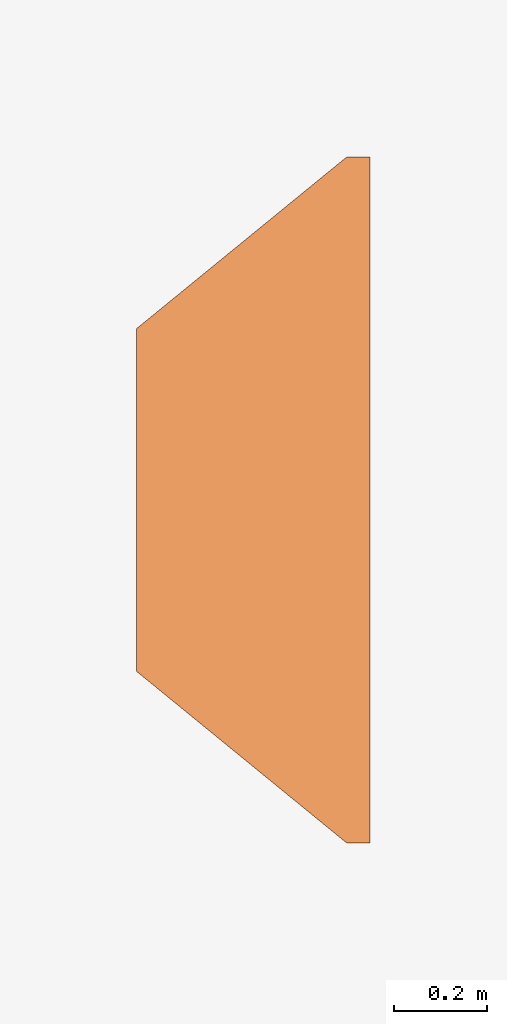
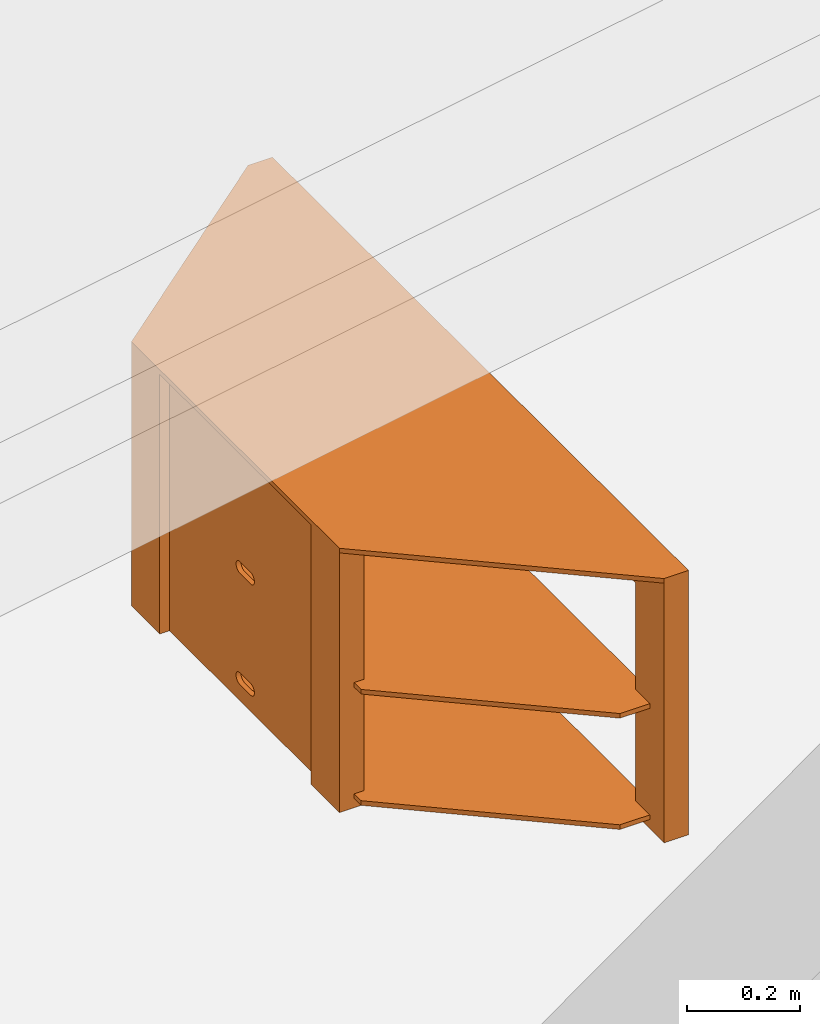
# One storey, part 6 of 6: 1 proxy.
"""IFC2X3 building model written with IfcOpenShell, lengths in metres."""

from ifc_helpers import new_model, entity, si_unit, converted_unit, derived_unit, direction, frame, origin, place, context, subcontext, project, spatial, faceted_brep, source, transform, mapped, material, material_list, type_object, type_shapes, element, save


model = new_model("IFC2X3")

# Units and contexts
model_context = context("Model", 3, precision=1e-05, world=origin(), true_north=direction((6.12303176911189e-17, 1.0)))
body_context = subcontext(model_context, "Body", "Model", "MODEL_VIEW")
ifc_project = project(units=[si_unit("LENGTHUNIT", "METRE"), si_unit("AREAUNIT", "SQUARE_METRE"), si_unit("VOLUMEUNIT", "CUBIC_METRE"), converted_unit("PLANEANGLEUNIT", "DEGREE", entity("IfcRatioMeasure", 0.0174532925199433), si_unit("PLANEANGLEUNIT", "RADIAN"), dimensions=[0, 0, 0, 0, 0, 0, 0]), si_unit("MASSUNIT", "GRAM", prefix="KILO"), derived_unit("MASSDENSITYUNIT", [(si_unit("MASSUNIT", "GRAM", prefix="KILO"), 1), (si_unit("LENGTHUNIT", "METRE"), -3)]), derived_unit("MOMENTOFINERTIAUNIT", [(si_unit("LENGTHUNIT", "METRE"), 4)]), si_unit("TIMEUNIT", "SECOND"), si_unit("FREQUENCYUNIT", "HERTZ"), si_unit("THERMODYNAMICTEMPERATUREUNIT", "DEGREE_CELSIUS"), derived_unit("THERMALTRANSMITTANCEUNIT", [(si_unit("MASSUNIT", "GRAM", prefix="KILO"), 1), (si_unit("THERMODYNAMICTEMPERATUREUNIT", "KELVIN"), -1), (si_unit("TIMEUNIT", "SECOND"), -3)]), derived_unit("VOLUMETRICFLOWRATEUNIT", [(si_unit("LENGTHUNIT", "METRE"), 3), (si_unit("TIMEUNIT", "SECOND"), -1)]), si_unit("ELECTRICCURRENTUNIT", "AMPERE"), si_unit("ELECTRICVOLTAGEUNIT", "VOLT"), si_unit("POWERUNIT", "WATT"), si_unit("FORCEUNIT", "NEWTON", prefix="KILO"), si_unit("ILLUMINANCEUNIT", "LUX"), si_unit("LUMINOUSFLUXUNIT", "LUMEN"), si_unit("LUMINOUSINTENSITYUNIT", "CANDELA"), derived_unit("USERDEFINED", [(si_unit("MASSUNIT", "GRAM", prefix="KILO"), -1), (si_unit("LENGTHUNIT", "METRE"), -2), (si_unit("TIMEUNIT", "SECOND"), 3), (si_unit("LUMINOUSFLUXUNIT", "LUMEN"), 1)]), derived_unit("LINEARVELOCITYUNIT", [(si_unit("LENGTHUNIT", "METRE"), 1), (si_unit("TIMEUNIT", "SECOND"), -1)]), si_unit("PRESSUREUNIT", "PASCAL"), derived_unit("USERDEFINED", [(si_unit("LENGTHUNIT", "METRE"), -2), (si_unit("MASSUNIT", "GRAM", prefix="KILO"), 1), (si_unit("TIMEUNIT", "SECOND"), -2)]), derived_unit("LINEARFORCEUNIT", [(si_unit("MASSUNIT", "GRAM", prefix="KILO"), 1), (si_unit("LENGTHUNIT", "METRE"), 1), (si_unit("TIMEUNIT", "SECOND"), -2), (si_unit("LENGTHUNIT", "METRE"), -1)]), derived_unit("PLANARFORCEUNIT", [(si_unit("MASSUNIT", "GRAM", prefix="KILO"), 1), (si_unit("LENGTHUNIT", "METRE"), 1), (si_unit("TIMEUNIT", "SECOND"), -2), (si_unit("LENGTHUNIT", "METRE"), -2)])], contexts=[model_context])

# Site, building, storey
site_placement = place(None, origin())
site = spatial("IfcSite", under=ifc_project, at=site_placement, Name="Surface", CompositionType="ELEMENT")
building_placement = place(site_placement, origin())
building = spatial("IfcBuilding", under=site, at=building_placement, CompositionType="ELEMENT")
storey_placement = place(building_placement, frame((0.0, 0.0, 5.6)))
storey = spatial("IfcBuildingStorey", under=building, at=storey_placement, Name="Niveau comble", CompositionType="ELEMENT", Elevation=5.6)

# Proxy
ifc_material_1 = material(Name="Verre - Meuble TV")
ifc_material_2 = material(Name="Bois - Mélaminé rouge")
ifc_material_3 = material(Name="Bois - Mélaminé gris")
ifc_material_list_1 = material_list([ifc_material_1, ifc_material_2, ifc_material_3])
ifc_material_list_2 = material_list([ifc_material_2, ifc_material_1])
building_element_proxy_type = type_object("IfcBuildingElementProxyType", Name="Meuble TV:1470 x 500 x 560 mm", PredefinedType="NOTDEFINED", material=ifc_material_list_2)
shared_shape = source(origin(), body_context, "Body", "Brep", [
    faceted_brep([(0.517188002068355, -0.03, 0.0199999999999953), (0.810188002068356, -0.388775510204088, 0.0199999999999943), (0.810188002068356, -0.470000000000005, 0.0199999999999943), (-0.559811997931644, -0.470000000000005, 0.0199999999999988), (-0.559811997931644, -0.38877551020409, 0.0199999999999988), (-0.266811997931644, -0.03, 0.0199999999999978), (0.517188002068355, -0.03, 0.0299999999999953), (-0.266811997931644, -0.03, 0.0299999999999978), (-0.559811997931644, -0.38877551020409, 0.0299999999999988), (-0.559811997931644, -0.470000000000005, 0.0299999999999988), (0.810188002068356, -0.470000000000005, 0.0299999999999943), (0.810188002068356, -0.388775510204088, 0.0299999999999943)], [[[0, 1, 2, 3, 4, 5]], [[6, 7, 8, 9, 10, 11]], [[1, 0, 6, 11]], [[2, 1, 11, 10]], [[3, 2, 10, 9]], [[4, 3, 9, 8]], [[5, 4, 8, 7]], [[0, 5, 7, 6]]]),
    faceted_brep([(0.517188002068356, -0.03, 0.259999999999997), (0.810188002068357, -0.388775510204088, 0.259999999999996), (0.810188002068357, -0.470000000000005, 0.259999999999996), (-0.559811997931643, -0.470000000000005, 0.260000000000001), (-0.559811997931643, -0.38877551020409, 0.260000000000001), (-0.266811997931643, -0.03, 0.26), (0.517188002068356, -0.03, 0.269999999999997), (-0.266811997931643, -0.03, 0.27), (-0.559811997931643, -0.38877551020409, 0.270000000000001), (-0.559811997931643, -0.470000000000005, 0.270000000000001), (0.810188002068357, -0.470000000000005, 0.269999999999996), (0.810188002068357, -0.388775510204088, 0.269999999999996)], [[[0, 1, 2, 3, 4, 5]], [[6, 7, 8, 9, 10, 11]], [[1, 0, 6, 11]], [[2, 1, 11, 10]], [[3, 2, 10, 9]], [[4, 3, 9, 8]], [[5, 4, 8, 7]], [[0, 5, 7, 6]]]),
    faceted_brep([(0.492688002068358, 0.0, 0.559999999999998), (0.860188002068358, -0.450000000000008, 0.559999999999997), (0.860188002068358, -0.500000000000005, 0.559999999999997), (-0.609811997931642, -0.500000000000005, 0.560000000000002), (-0.609811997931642, -0.45000000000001, 0.560000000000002), (-0.242311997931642, 0.0, 0.560000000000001), (0.492688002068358, 0.0, 0.569999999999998), (-0.242311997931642, 0.0, 0.570000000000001), (-0.609811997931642, -0.45000000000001, 0.570000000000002), (-0.609811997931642, -0.500000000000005, 0.570000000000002), (0.860188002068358, -0.500000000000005, 0.569999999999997), (0.860188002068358, -0.450000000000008, 0.569999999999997)], [[[0, 1, 2, 3, 4, 5]], [[6, 7, 8, 9, 10, 11]], [[1, 0, 6, 11]], [[2, 1, 11, 10]], [[3, 2, 10, 9]], [[4, 3, 9, 8]], [[5, 4, 8, 7]], [[0, 5, 7, 6]]]),
    faceted_brep([(0.492688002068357, -0.05, 0.56), (0.492688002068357, 0.0, 0.56), (0.392688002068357, 0.0, 0.56), (0.392688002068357, -0.05, 0.56), (0.492688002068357, -0.05, 0.0), (0.392688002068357, -0.05, 0.0), (0.392688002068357, 0.0, 0.0), (0.492688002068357, 0.0, 0.0), (0.492688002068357, -0.05, 0.269999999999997), (0.492688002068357, -0.0299999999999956, 0.269999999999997), (0.492688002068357, -0.0299999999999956, 0.259999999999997), (0.492688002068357, -0.05, 0.259999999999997), (0.492688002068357, -0.05, 0.0299999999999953), (0.492688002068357, -0.03, 0.0299999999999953), (0.492688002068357, -0.03, 0.0199999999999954), (0.492688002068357, -0.05, 0.0199999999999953), (0.392688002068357, -0.05, 0.0199999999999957), (0.392688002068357, -0.03, 0.0199999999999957), (0.392688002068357, -0.03, 0.0299999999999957), (0.392688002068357, -0.05, 0.0299999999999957), (0.392688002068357, -0.05, 0.259999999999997), (0.392688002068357, -0.0299999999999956, 0.259999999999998), (0.392688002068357, -0.0299999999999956, 0.269999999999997), (0.392688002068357, -0.05, 0.269999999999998)], [[[0, 1, 2, 3]], [[4, 5, 6, 7]], [[1, 0, 8, 9, 10, 11, 12, 13, 14, 15, 4, 7]], [[2, 1, 7, 6]], [[3, 2, 6, 5, 16, 17, 18, 19, 20, 21, 22, 23]], [[0, 3, 23, 8]], [[22, 9, 8, 23]], [[9, 22, 21, 10]], [[18, 13, 12, 19]], [[13, 18, 17, 14]], [[14, 17, 16, 15]], [[10, 21, 20, 11]], [[11, 20, 19, 12]], [[5, 4, 15, 16]]]),
    faceted_brep([(-0.142311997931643, 0.0, 0.56), (-0.142311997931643, -0.05, 0.56), (-0.142311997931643, -0.05, 0.269999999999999), (-0.142311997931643, -0.0299999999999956, 0.269999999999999), (-0.142311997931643, -0.0299999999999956, 0.259999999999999), (-0.142311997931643, -0.05, 0.259999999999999), (-0.142311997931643, -0.05, 0.0299999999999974), (-0.142311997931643, -0.03, 0.0299999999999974), (-0.142311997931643, -0.03, 0.0199999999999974), (-0.142311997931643, -0.05, 0.0199999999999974), (-0.142311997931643, -0.05, 0.0), (-0.142311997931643, 0.0, 0.0), (-0.242311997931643, 0.0, 0.56), (-0.242311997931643, 0.0, 0.0), (-0.242311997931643, -0.05, 0.56), (-0.242311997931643, -0.05, 0.0), (-0.242311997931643, -0.05, 0.0199999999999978), (-0.242311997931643, -0.03, 0.0199999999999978), (-0.242311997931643, -0.03, 0.0299999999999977), (-0.242311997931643, -0.05, 0.0299999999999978), (-0.242311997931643, -0.05, 0.26), (-0.242311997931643, -0.0299999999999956, 0.26), (-0.242311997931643, -0.0299999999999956, 0.27), (-0.242311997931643, -0.05, 0.27)], [[[0, 1, 2, 3, 4, 5, 6, 7, 8, 9, 10, 11]], [[12, 0, 11, 13]], [[14, 12, 13, 15, 16, 17, 18, 19, 20, 21, 22, 23]], [[1, 14, 23, 2]], [[4, 21, 20, 5]], [[8, 17, 16, 9]], [[7, 18, 17, 8]], [[18, 7, 6, 19]], [[3, 22, 21, 4]], [[22, 3, 2, 23]], [[5, 20, 19, 6]], [[15, 10, 9, 16]], [[10, 15, 13, 11]], [[1, 0, 12, 14]]]),
    faceted_brep([(-0.609811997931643, -0.499999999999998, 0.0), (-0.509811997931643, -0.499999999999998, 0.0), (-0.509811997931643, -0.499999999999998, 0.499999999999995), (0.760188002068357, -0.500000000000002, 0.499999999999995), (0.760188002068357, -0.500000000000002, 0.0), (0.860188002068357, -0.500000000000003, 0.0), (0.860188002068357, -0.500000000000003, 0.559999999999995), (-0.609811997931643, -0.499999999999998, 0.559999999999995), (-0.609811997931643, -0.449999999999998, 0.0), (-0.609811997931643, -0.449999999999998, 0.559999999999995), (0.860188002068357, -0.450000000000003, 0.559999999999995), (0.860188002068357, -0.450000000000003, 0.0), (0.760188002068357, -0.450000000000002, 0.0), (0.760188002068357, -0.450000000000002, 0.0199999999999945), (0.810188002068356, -0.450000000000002, 0.0199999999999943), (0.810188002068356, -0.450000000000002, 0.0299999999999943), (0.760188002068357, -0.450000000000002, 0.0299999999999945), (0.760188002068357, -0.450000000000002, 0.259999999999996), (0.810188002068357, -0.450000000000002, 0.259999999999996), (0.810188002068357, -0.450000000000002, 0.269999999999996), (0.760188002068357, -0.450000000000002, 0.269999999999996), (0.760188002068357, -0.450000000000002, 0.499999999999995), (-0.509811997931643, -0.449999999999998, 0.499999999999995), (-0.509811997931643, -0.449999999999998, 0.27), (-0.559811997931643, -0.449999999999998, 0.270000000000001), (-0.559811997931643, -0.449999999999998, 0.260000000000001), (-0.509811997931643, -0.449999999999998, 0.26), (-0.509811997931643, -0.449999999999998, 0.0299999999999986), (-0.559811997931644, -0.449999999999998, 0.0299999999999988), (-0.559811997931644, -0.449999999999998, 0.0199999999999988), (-0.509811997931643, -0.449999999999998, 0.0199999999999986), (-0.509811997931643, -0.449999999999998, 0.0), (-0.509811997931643, -0.470000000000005, 0.0199999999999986), (-0.509811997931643, -0.470000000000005, 0.0299999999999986), (-0.509811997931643, -0.470000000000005, 0.26), (-0.509811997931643, -0.470000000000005, 0.27), (0.760188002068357, -0.470000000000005, 0.269999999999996), (0.760188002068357, -0.470000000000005, 0.259999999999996), (0.760188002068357, -0.470000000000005, 0.0299999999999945), (0.760188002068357, -0.470000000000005, 0.0199999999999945), (0.810188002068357, -0.470000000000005, 0.269999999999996), (-0.559811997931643, -0.470000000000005, 0.260000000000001), (-0.559811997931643, -0.470000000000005, 0.270000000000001), (0.810188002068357, -0.470000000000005, 0.259999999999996), (0.810188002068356, -0.470000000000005, 0.0299999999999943), (-0.559811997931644, -0.470000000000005, 0.0199999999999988), (-0.559811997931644, -0.470000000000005, 0.0299999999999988), (0.810188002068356, -0.470000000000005, 0.0199999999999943)], [[[0, 1, 2, 3, 4, 5, 6, 7]], [[8, 9, 10, 11, 12, 13, 14, 15, 16, 17, 18, 19, 20, 21, 22, 23, 24, 25, 26, 27, 28, 29, 30, 31]], [[1, 0, 8, 31]], [[2, 1, 31, 30, 32, 33, 27, 26, 34, 35, 23, 22]], [[3, 2, 22, 21]], [[4, 3, 21, 20, 36, 37, 17, 16, 38, 39, 13, 12]], [[5, 4, 12, 11]], [[6, 5, 11, 10]], [[7, 6, 10, 9]], [[0, 7, 9, 8]], [[19, 40, 36, 20]], [[25, 41, 34, 26]], [[42, 41, 25, 24]], [[41, 42, 35, 34]], [[43, 40, 19, 18]], [[15, 44, 38, 16]], [[29, 45, 32, 30]], [[46, 45, 29, 28]], [[45, 46, 33, 32]], [[47, 44, 15, 14]], [[44, 47, 39, 38]], [[39, 47, 14, 13]], [[33, 46, 28, 27]], [[40, 43, 37, 36]], [[37, 43, 18, 17]], [[35, 42, 24, 23]]]),
    faceted_brep([(0.392688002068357, -0.03, 0.0), (0.157262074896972, -0.03, 0.0442647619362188), (0.156013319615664, -0.03, 0.0412500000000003), (0.157688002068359, -0.03, 0.0475000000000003), (0.15402683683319, -0.03, 0.0386611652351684), (0.151438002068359, -0.03, 0.0366746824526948), (0.14842324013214, -0.03, 0.0354259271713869), (0.145188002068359, -0.03, 0.0350000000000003), (0.105205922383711, -0.03, 0.0350000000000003), (0.157262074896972, -0.03, 0.0507352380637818), (0.156013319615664, -0.03, 0.0537500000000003), (0.155995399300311, -0.03, 0.281249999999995), (-0.142311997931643, -0.03, 0.0), (0.157244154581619, -0.03, 0.284264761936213), (0.157670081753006, -0.03, 0.287499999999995), (0.392688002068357, -0.03, 0.559999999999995), (0.157244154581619, -0.03, 0.290735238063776), (0.155995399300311, -0.03, 0.293749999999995), (0.154008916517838, -0.03, 0.296338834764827), (0.151420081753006, -0.03, 0.2983253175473), (0.148405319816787, -0.03, 0.299574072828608), (0.145170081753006, -0.03, 0.299999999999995), (0.105205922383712, -0.03, 0.299999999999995), (-0.142311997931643, -0.03, 0.559999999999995), (0.0927059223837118, -0.03, 0.287499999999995), (0.10197068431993, -0.03, 0.299574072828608), (0.0989559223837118, -0.03, 0.2983253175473), (0.0963670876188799, -0.03, 0.296338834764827), (0.0943806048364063, -0.03, 0.293749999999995), (0.0931318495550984, -0.03, 0.290735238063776), (0.0931318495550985, -0.03, 0.284264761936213), (0.15402683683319, -0.03, 0.0563388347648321), (0.154008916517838, -0.03, 0.278661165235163), (0.151438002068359, -0.03, 0.0583253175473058), (0.151420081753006, -0.03, 0.276674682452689), (0.14842324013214, -0.03, 0.0595740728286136), (0.148405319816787, -0.03, 0.275425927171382), (0.145188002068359, -0.03, 0.0600000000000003), (0.145170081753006, -0.03, 0.274999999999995), (0.105205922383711, -0.03, 0.0600000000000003), (0.105205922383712, -0.03, 0.274999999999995), (0.10197068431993, -0.03, 0.275425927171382), (0.10197068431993, -0.03, 0.0595740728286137), (0.0989559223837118, -0.03, 0.276674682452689), (0.0989559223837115, -0.03, 0.0583253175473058), (0.09636708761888, -0.03, 0.278661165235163), (0.0963670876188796, -0.03, 0.0563388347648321), (0.0943806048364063, -0.03, 0.281249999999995), (0.094380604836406, -0.03, 0.0537500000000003), (0.10197068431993, -0.03, 0.035425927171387), (0.0989559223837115, -0.03, 0.0366746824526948), (0.0963670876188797, -0.03, 0.0386611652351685), (0.094380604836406, -0.03, 0.0412500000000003), (0.0931318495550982, -0.03, 0.0442647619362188), (0.0927059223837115, -0.03, 0.0475000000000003), (0.0931318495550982, -0.03, 0.0507352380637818), (0.392688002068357, -0.02, 0.559999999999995), (0.157244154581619, -0.02, 0.290735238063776), (0.155995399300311, -0.02, 0.293749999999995), (0.157670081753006, -0.02, 0.287499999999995), (0.154008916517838, -0.02, 0.296338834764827), (0.151420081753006, -0.02, 0.2983253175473), (0.148405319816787, -0.02, 0.299574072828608), (0.145170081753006, -0.02, 0.299999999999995), (0.105205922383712, -0.02, 0.299999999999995), (0.392688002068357, -0.02, 0.0), (-0.142311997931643, -0.02, 0.559999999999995), (0.157244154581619, -0.02, 0.284264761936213), (0.155995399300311, -0.02, 0.281249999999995), (0.156013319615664, -0.02, 0.0537500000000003), (0.157262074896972, -0.02, 0.0507352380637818), (0.157688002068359, -0.02, 0.0475000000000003), (0.157262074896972, -0.02, 0.0442647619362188), (0.156013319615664, -0.02, 0.0412500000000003), (0.15402683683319, -0.02, 0.0386611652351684), (0.151438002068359, -0.02, 0.0366746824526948), (0.14842324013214, -0.02, 0.0354259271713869), (0.145188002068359, -0.02, 0.0350000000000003), (0.105205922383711, -0.02, 0.0350000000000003), (-0.142311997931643, -0.02, 0.0), (0.0927059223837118, -0.02, 0.287499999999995), (0.0931318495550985, -0.02, 0.284264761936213), (0.0943806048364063, -0.02, 0.281249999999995), (0.094380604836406, -0.02, 0.0537500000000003), (0.0931318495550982, -0.02, 0.0507352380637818), (0.0927059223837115, -0.02, 0.0475000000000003), (0.10197068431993, -0.02, 0.035425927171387), (0.0989559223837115, -0.02, 0.0366746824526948), (0.0963670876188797, -0.02, 0.0386611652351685), (0.094380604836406, -0.02, 0.0412500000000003), (0.0931318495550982, -0.02, 0.0442647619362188), (0.15402683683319, -0.02, 0.0563388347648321), (0.154008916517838, -0.02, 0.278661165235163), (0.151438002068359, -0.02, 0.0583253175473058), (0.151420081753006, -0.02, 0.276674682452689), (0.14842324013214, -0.02, 0.0595740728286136), (0.148405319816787, -0.02, 0.275425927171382), (0.145188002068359, -0.02, 0.0600000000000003), (0.145170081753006, -0.02, 0.274999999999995), (0.105205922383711, -0.02, 0.0600000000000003), (0.105205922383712, -0.02, 0.274999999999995), (0.10197068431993, -0.02, 0.275425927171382), (0.10197068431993, -0.02, 0.0595740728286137), (0.0989559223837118, -0.02, 0.276674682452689), (0.0989559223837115, -0.02, 0.0583253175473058), (0.09636708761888, -0.02, 0.278661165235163), (0.0963670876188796, -0.02, 0.0563388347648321), (0.10197068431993, -0.02, 0.299574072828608), (0.0989559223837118, -0.02, 0.2983253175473), (0.0963670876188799, -0.02, 0.296338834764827), (0.0943806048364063, -0.02, 0.293749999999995), (0.0931318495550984, -0.02, 0.290735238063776)], [[[0, 1, 2]], [[1, 0, 3]], [[0, 2, 4]], [[4, 5, 0]], [[6, 0, 5]], [[6, 7, 0]], [[0, 7, 8]], [[9, 3, 0]], [[10, 9, 0]], [[0, 11, 10]], [[8, 12, 0]], [[11, 0, 13]], [[13, 0, 14]], [[14, 0, 15]], [[15, 16, 14]], [[16, 15, 17]], [[17, 15, 18]], [[19, 18, 15]], [[19, 15, 20]], [[21, 20, 15]], [[15, 22, 21]], [[22, 15, 23]], [[24, 23, 12]], [[25, 22, 23]], [[26, 25, 23]], [[23, 27, 26]], [[27, 23, 28]], [[29, 28, 23]], [[29, 23, 24]], [[24, 12, 30]], [[31, 10, 11]], [[32, 31, 11]], [[32, 33, 31]], [[32, 34, 33]], [[35, 33, 34]], [[36, 35, 34]], [[37, 35, 36]], [[36, 38, 37]], [[37, 38, 39]], [[38, 40, 39]], [[40, 41, 39]], [[42, 39, 41]], [[41, 43, 42]], [[43, 44, 42]], [[43, 45, 44]], [[45, 46, 44]], [[47, 46, 45]], [[12, 48, 47]], [[48, 46, 47]], [[30, 12, 47]], [[8, 49, 12]], [[49, 50, 12]], [[51, 12, 50]], [[12, 51, 52]], [[52, 53, 12]], [[12, 53, 54]], [[54, 55, 12]], [[55, 48, 12]], [[56, 57, 58]], [[57, 56, 59]], [[56, 58, 60]], [[60, 61, 56]], [[62, 56, 61]], [[62, 63, 56]], [[56, 63, 64]], [[56, 65, 59]], [[64, 66, 56]], [[65, 67, 59]], [[65, 68, 67]], [[69, 68, 65]], [[70, 69, 65]], [[71, 70, 65]], [[65, 72, 71]], [[72, 65, 73]], [[73, 65, 74]], [[75, 74, 65]], [[75, 65, 76]], [[77, 76, 65]], [[65, 78, 77]], [[78, 65, 79]], [[66, 80, 79]], [[79, 80, 81]], [[79, 81, 82]], [[83, 79, 82]], [[83, 84, 79]], [[84, 85, 79]], [[86, 78, 79]], [[87, 86, 79]], [[79, 88, 87]], [[88, 79, 89]], [[90, 89, 79]], [[90, 79, 85]], [[91, 68, 69]], [[92, 68, 91]], [[93, 92, 91]], [[94, 92, 93]], [[94, 93, 95]], [[94, 95, 96]], [[95, 97, 96]], [[98, 96, 97]], [[97, 99, 98]], [[98, 99, 100]], [[101, 100, 99]], [[99, 102, 101]], [[103, 101, 102]], [[104, 103, 102]], [[103, 104, 105]], [[106, 105, 104]], [[106, 82, 105]], [[83, 82, 106]], [[64, 107, 66]], [[107, 108, 66]], [[109, 66, 108]], [[66, 109, 110]], [[110, 111, 66]], [[66, 111, 80]], [[15, 0, 65, 56]], [[23, 15, 56, 66]], [[12, 23, 66, 79]], [[0, 12, 79, 65]], [[40, 38, 98, 100]], [[40, 100, 101, 41]], [[41, 101, 103, 43]], [[47, 45, 105, 82]], [[103, 105, 45, 43]], [[30, 47, 82, 81]], [[81, 80, 24, 30]], [[29, 111, 110, 28]], [[28, 110, 109, 27]], [[25, 26, 108, 107]], [[109, 108, 26, 27]], [[22, 25, 107, 64]], [[29, 24, 80, 111]], [[21, 22, 64, 63]], [[21, 63, 62, 20]], [[20, 62, 61, 19]], [[17, 18, 60, 58]], [[61, 60, 18, 19]], [[16, 17, 58, 57]], [[57, 59, 14, 16]], [[13, 67, 68, 11]], [[11, 68, 92, 32]], [[36, 34, 94, 96]], [[92, 94, 34, 32]], [[38, 36, 96, 98]], [[13, 14, 59, 67]], [[8, 7, 77, 78]], [[8, 78, 86, 49]], [[49, 86, 87, 50]], [[52, 51, 88, 89]], [[87, 88, 51, 50]], [[53, 52, 89, 90]], [[90, 85, 54, 53]], [[55, 84, 83, 48]], [[48, 83, 106, 46]], [[42, 44, 104, 102]], [[106, 104, 44, 46]], [[39, 42, 102, 99]], [[55, 54, 85, 84]], [[37, 39, 99, 97]], [[37, 97, 95, 35]], [[35, 95, 93, 33]], [[10, 31, 91, 69]], [[93, 91, 31, 33]], [[9, 10, 69, 70]], [[70, 71, 3, 9]], [[1, 72, 73, 2]], [[2, 73, 74, 4]], [[6, 5, 75, 76]], [[74, 75, 5, 4]], [[7, 6, 76, 77]], [[1, 3, 71, 72]]]),
])
type_shapes(building_element_proxy_type, [shared_shape])
proxy_placement = place(storey_placement, frame((3.0393960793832, 4.59407010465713, 0.0), z_axis=(0.0, 0.0, 1.0), x_axis=(0.0, 1.0, 0.0)))
element("IfcBuildingElementProxy", 1, at=proxy_placement, inside=storey, type_object=building_element_proxy_type, material=ifc_material_list_1, Name="Meuble TV:1470 x 500 x 560 mm", ObjectType="Meuble TV:1470 x 500 x 560 mm", context=body_context, shape_type="MappedRepresentation", body=[
    mapped(shared_shape, transform((0.0, 0.0, 0.0), scale=1.0)),
])

save(model, "model.ifc")
